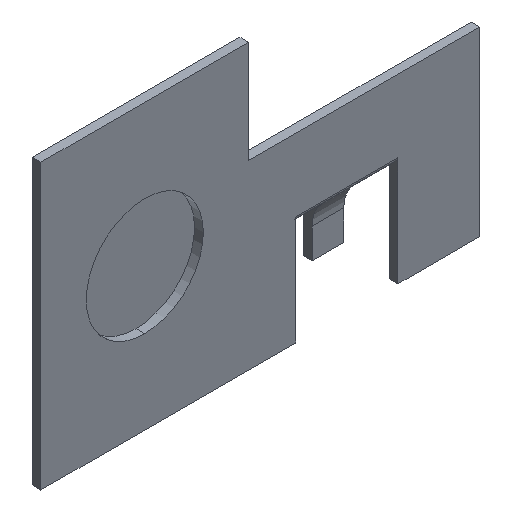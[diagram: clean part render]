
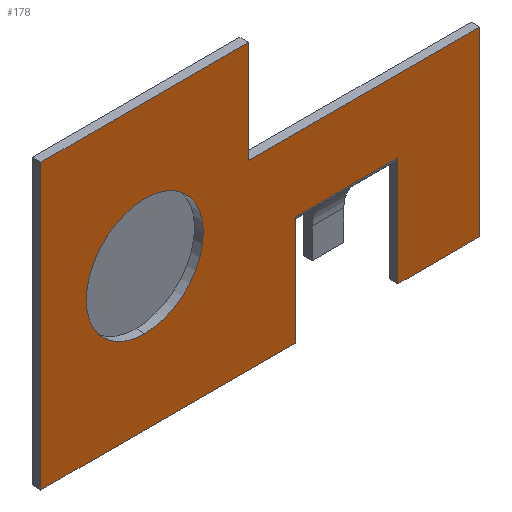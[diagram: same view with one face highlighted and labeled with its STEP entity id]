
A CAD part, isometric view. The second image highlights one B-rep face of the part: STEP entity #178.
In plain terms, the highlighted planar face has unit normal (0, -1, 0).
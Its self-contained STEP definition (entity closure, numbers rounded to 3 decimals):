
#11 = DIRECTION ( 'NONE',  ( 0., -1., 0. ) ) ;
#12 = VERTEX_POINT ( 'NONE', #559 ) ;
#16 = EDGE_CURVE ( 'NONE', #390, #591, #844, .T. ) ;
#26 = ORIENTED_EDGE ( 'NONE', *, *, #629, .F. ) ;
#35 = VERTEX_POINT ( 'NONE', #1094 ) ;
#39 = CARTESIAN_POINT ( 'NONE',  ( -7.258, 0., -1.582 ) ) ;
#48 = VERTEX_POINT ( 'NONE', #483 ) ;
#77 = VERTEX_POINT ( 'NONE', #156 ) ;
#93 = CARTESIAN_POINT ( 'NONE',  ( 1.392, 0., -2.632 ) ) ;
#96 = EDGE_CURVE ( 'NONE', #35, #988, #274, .T. ) ;
#99 = ORIENTED_EDGE ( 'NONE', *, *, #654, .F. ) ;
#111 = VECTOR ( 'NONE', #556, 1000. ) ;
#114 = EDGE_LOOP ( 'NONE', ( #960, #920, #529, #891, #674, #701, #26, #239, #99, #384 ) ) ;
#120 = EDGE_LOOP ( 'NONE', ( #792, #355 ) ) ;
#130 = DIRECTION ( 'NONE',  ( 1., 0., 0. ) ) ;
#137 = LINE ( 'NONE', #813, #111 ) ;
#139 = DIRECTION ( 'NONE',  ( 0., 0., -1. ) ) ;
#156 = CARTESIAN_POINT ( 'NONE',  ( -3.708, 0., -0.232 ) ) ;
#167 = DIRECTION ( 'NONE',  ( 0., 0., -1. ) ) ;
#178 = ADVANCED_FACE ( 'NONE', ( #1043, #1015 ), #842, .T. ) ;
#205 = DIRECTION ( 'NONE',  ( -1., 0., 0. ) ) ;
#208 = DIRECTION ( 'NONE',  ( 0., 0., 1. ) ) ;
#224 = AXIS2_PLACEMENT_3D ( 'NONE', #995, #499, #1086 ) ;
#227 = VERTEX_POINT ( 'NONE', #407 ) ;
#239 = ORIENTED_EDGE ( 'NONE', *, *, #423, .F. ) ;
#270 = EDGE_CURVE ( 'NONE', #600, #35, #469, .T. ) ;
#274 = LINE ( 'NONE', #887, #538 ) ;
#348 = EDGE_CURVE ( 'NONE', #227, #519, #1070, .T. ) ;
#355 = ORIENTED_EDGE ( 'NONE', *, *, #377, .T. ) ;
#368 = CARTESIAN_POINT ( 'NONE',  ( 1.392, 0., -6.432 ) ) ;
#374 = VECTOR ( 'NONE', #208, 1000. ) ;
#377 = EDGE_CURVE ( 'NONE', #48, #933, #1003, .T. ) ;
#384 = ORIENTED_EDGE ( 'NONE', *, *, #16, .F. ) ;
#390 = VERTEX_POINT ( 'NONE', #733 ) ;
#405 = AXIS2_PLACEMENT_3D ( 'NONE', #1009, #11, #956 ) ;
#407 = CARTESIAN_POINT ( 'NONE',  ( 4.192, 0., -0.232 ) ) ;
#419 = DIRECTION ( 'NONE',  ( 0., 0., 1. ) ) ;
#423 = EDGE_CURVE ( 'NONE', #854, #12, #869, .T. ) ;
#433 = CARTESIAN_POINT ( 'NONE',  ( 1.392, 0., -6.432 ) ) ;
#469 = LINE ( 'NONE', #93, #374 ) ;
#483 = CARTESIAN_POINT ( 'NONE',  ( -7.258, 0., -3.582 ) ) ;
#499 = DIRECTION ( 'NONE',  ( 0., 1., 0. ) ) ;
#511 = DIRECTION ( 'NONE',  ( 0., 0., 1. ) ) ;
#519 = VERTEX_POINT ( 'NONE', #1115 ) ;
#529 = ORIENTED_EDGE ( 'NONE', *, *, #270, .F. ) ;
#534 = CARTESIAN_POINT ( 'NONE',  ( -10.808, 0., -6.432 ) ) ;
#538 = VECTOR ( 'NONE', #205, 1000. ) ;
#556 = DIRECTION ( 'NONE',  ( 0., 0., -1. ) ) ;
#559 = CARTESIAN_POINT ( 'NONE',  ( -3.708, 0., 3.268 ) ) ;
#591 = VERTEX_POINT ( 'NONE', #534 ) ;
#593 = CARTESIAN_POINT ( 'NONE',  ( -3.708, 0., 3.268 ) ) ;
#599 = CARTESIAN_POINT ( 'NONE',  ( -3.708, 0., -0.232 ) ) ;
#600 = VERTEX_POINT ( 'NONE', #368 ) ;
#624 = DIRECTION ( 'NONE',  ( 1., 0., 0. ) ) ;
#629 = EDGE_CURVE ( 'NONE', #12, #77, #1107, .T. ) ;
#654 = EDGE_CURVE ( 'NONE', #591, #854, #894, .T. ) ;
#668 = CARTESIAN_POINT ( 'NONE',  ( -10.808, 0., -6.432 ) ) ;
#674 = ORIENTED_EDGE ( 'NONE', *, *, #348, .F. ) ;
#681 = VECTOR ( 'NONE', #1024, 1000. ) ;
#687 = EDGE_CURVE ( 'NONE', #519, #600, #798, .T. ) ;
#692 = VECTOR ( 'NONE', #1090, 1000. ) ;
#701 = ORIENTED_EDGE ( 'NONE', *, *, #977, .F. ) ;
#733 = CARTESIAN_POINT ( 'NONE',  ( -2.108, 0., -6.432 ) ) ;
#779 = VECTOR ( 'NONE', #624, 1000. ) ;
#792 = ORIENTED_EDGE ( 'NONE', *, *, #982, .T. ) ;
#798 = LINE ( 'NONE', #433, #681 ) ;
#813 = CARTESIAN_POINT ( 'NONE',  ( -2.108, 0., -6.432 ) ) ;
#816 = LINE ( 'NONE', #914, #965 ) ;
#824 = CARTESIAN_POINT ( 'NONE',  ( 4.192, 0., -6.432 ) ) ;
#830 = EDGE_CURVE ( 'NONE', #988, #390, #137, .T. ) ;
#842 = PLANE ( 'NONE',  #405 ) ;
#844 = LINE ( 'NONE', #668, #692 ) ;
#854 = VERTEX_POINT ( 'NONE', #909 ) ;
#869 = LINE ( 'NONE', #593, #779 ) ;
#887 = CARTESIAN_POINT ( 'NONE',  ( 5.5, 0., -2.703 ) ) ;
#891 = ORIENTED_EDGE ( 'NONE', *, *, #687, .F. ) ;
#894 = LINE ( 'NONE', #942, #1025 ) ;
#909 = CARTESIAN_POINT ( 'NONE',  ( -10.808, 0., 3.268 ) ) ;
#914 = CARTESIAN_POINT ( 'NONE',  ( 4.192, 0., -0.232 ) ) ;
#920 = ORIENTED_EDGE ( 'NONE', *, *, #96, .F. ) ;
#924 = CARTESIAN_POINT ( 'NONE',  ( -2.108, 0., -2.703 ) ) ;
#929 = VECTOR ( 'NONE', #167, 1000. ) ;
#933 = VERTEX_POINT ( 'NONE', #986 ) ;
#942 = CARTESIAN_POINT ( 'NONE',  ( -10.808, 0., 3.268 ) ) ;
#956 = DIRECTION ( 'NONE',  ( 0., 0., -1. ) ) ;
#960 = ORIENTED_EDGE ( 'NONE', *, *, #830, .F. ) ;
#965 = VECTOR ( 'NONE', #130, 1000. ) ;
#977 = EDGE_CURVE ( 'NONE', #77, #227, #816, .T. ) ;
#982 = EDGE_CURVE ( 'NONE', #933, #48, #983, .T. ) ;
#983 = CIRCLE ( 'NONE', #224, 2. ) ;
#986 = CARTESIAN_POINT ( 'NONE',  ( -7.258, 0., 0.418 ) ) ;
#988 = VERTEX_POINT ( 'NONE', #924 ) ;
#994 = AXIS2_PLACEMENT_3D ( 'NONE', #39, #1073, #419 ) ;
#995 = CARTESIAN_POINT ( 'NONE',  ( -7.258, 0., -1.582 ) ) ;
#1003 = CIRCLE ( 'NONE', #994, 2. ) ;
#1009 = CARTESIAN_POINT ( 'NONE',  ( 0., 0., 0. ) ) ;
#1015 = FACE_OUTER_BOUND ( 'NONE', #114, .T. ) ;
#1024 = DIRECTION ( 'NONE',  ( -1., 0., 0. ) ) ;
#1025 = VECTOR ( 'NONE', #511, 1000. ) ;
#1043 = FACE_BOUND ( 'NONE', #120, .T. ) ;
#1062 = VECTOR ( 'NONE', #139, 1000. ) ;
#1070 = LINE ( 'NONE', #824, #1062 ) ;
#1073 = DIRECTION ( 'NONE',  ( 0., 1., 0. ) ) ;
#1086 = DIRECTION ( 'NONE',  ( 0., 0., 1. ) ) ;
#1090 = DIRECTION ( 'NONE',  ( -1., 0., 0. ) ) ;
#1094 = CARTESIAN_POINT ( 'NONE',  ( 1.392, 0., -2.703 ) ) ;
#1107 = LINE ( 'NONE', #599, #929 ) ;
#1115 = CARTESIAN_POINT ( 'NONE',  ( 4.192, 0., -6.432 ) ) ;
